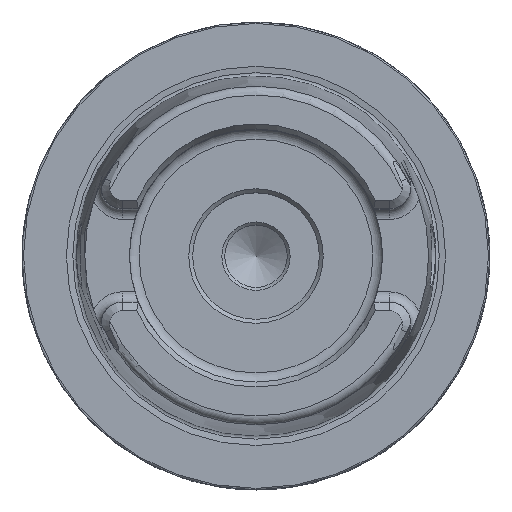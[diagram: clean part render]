
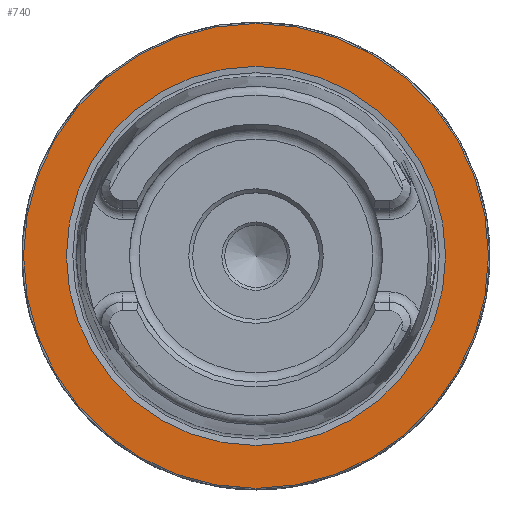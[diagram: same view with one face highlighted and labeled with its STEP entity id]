
A CAD part, top view. The second image highlights one B-rep face of the part: STEP entity #740.
In plain terms, the highlighted planar face has unit normal (0, 0, 1).
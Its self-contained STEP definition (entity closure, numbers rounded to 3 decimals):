
#396=PLANE('',#3318);
#740=ADVANCED_FACE('',(#1058,#1059),#396,.T.);
#955=CIRCLE('',#3314,25.502);
#957=CIRCLE('',#3317,31.27);
#1058=FACE_BOUND('',#1257,.T.);
#1059=FACE_BOUND('',#1258,.T.);
#1257=EDGE_LOOP('',(#1890));
#1258=EDGE_LOOP('',(#1891));
#1890=ORIENTED_EDGE('',*,*,#2813,.F.);
#1891=ORIENTED_EDGE('',*,*,#2815,.T.);
#2427=VERTEX_POINT('',#6619);
#2429=VERTEX_POINT('',#6624);
#2813=EDGE_CURVE('',#2427,#2427,#955,.T.);
#2815=EDGE_CURVE('',#2429,#2429,#957,.T.);
#3314=AXIS2_PLACEMENT_3D('',#6618,#3936,#3937);
#3317=AXIS2_PLACEMENT_3D('',#6623,#3942,#3943);
#3318=AXIS2_PLACEMENT_3D('',#6625,#3944,#3945);
#3936=DIRECTION('',(0.,0.,1.));
#3937=DIRECTION('',(0.,-1.,0.));
#3942=DIRECTION('',(0.,0.,1.));
#3943=DIRECTION('',(0.,-1.,0.));
#3944=DIRECTION('',(0.,0.,1.));
#3945=DIRECTION('',(0.,-1.,0.));
#6618=CARTESIAN_POINT('',(0.,0.,
0.));
#6619=CARTESIAN_POINT('',(0.,-25.502,0.));
#6623=CARTESIAN_POINT('',(0.,0.,0.));
#6624=CARTESIAN_POINT('',(0.,-31.27,0.));
#6625=CARTESIAN_POINT('',(0.,0.,0.));
